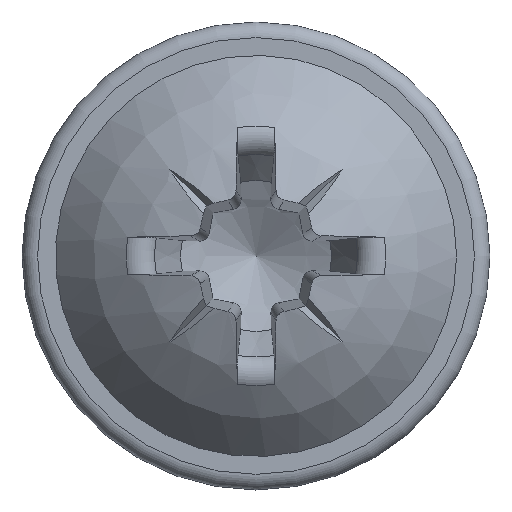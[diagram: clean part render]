
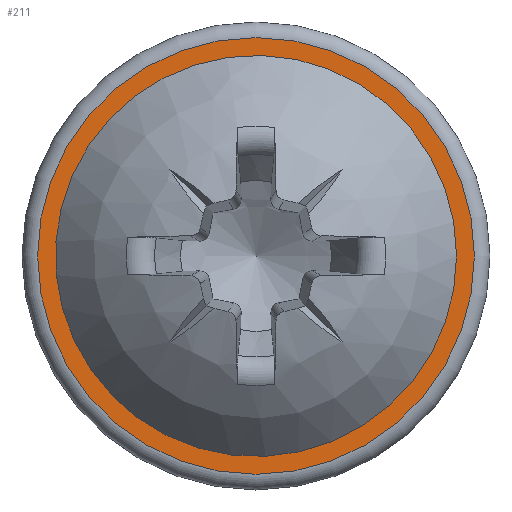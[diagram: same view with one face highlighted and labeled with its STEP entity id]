
A CAD part, top view. The second image highlights one B-rep face of the part: STEP entity #211.
In plain terms, the highlighted planar face has unit normal (0, 0, 1).
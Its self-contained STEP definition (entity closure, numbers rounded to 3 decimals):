
#137=PLANE('',#1203);
#192=FACE_BOUND('',#349,.T.);
#193=FACE_BOUND('',#350,.T.);
#211=ADVANCED_FACE('',(#192,#193),#137,.F.);
#349=EDGE_LOOP('',(#532));
#350=EDGE_LOOP('',(#533));
#415=CIRCLE('',#1159,5.143);
#451=CIRCLE('',#1202,5.6);
#532=ORIENTED_EDGE('',*,*,#975,.T.);
#533=ORIENTED_EDGE('',*,*,#921,.F.);
#808=VERTEX_POINT('',#1768);
#859=VERTEX_POINT('',#2210);
#921=EDGE_CURVE('',#808,#808,#415,.T.);
#975=EDGE_CURVE('',#859,#859,#451,.T.);
#1159=AXIS2_PLACEMENT_3D('',#1767,#1268,#1269);
#1202=AXIS2_PLACEMENT_3D('',#2209,#1354,#1355);
#1203=AXIS2_PLACEMENT_3D('',#2211,#1356,#1357);
#1268=DIRECTION('',(0.,0.,1.));
#1269=DIRECTION('',(1.,0.,0.));
#1354=DIRECTION('',(0.,0.,1.));
#1355=DIRECTION('',(-1.,0.,0.));
#1356=DIRECTION('',(0.,0.,-1.));
#1357=DIRECTION('',(-1.,0.,0.));
#1767=CARTESIAN_POINT('',(0.,0.,1.3));
#1768=CARTESIAN_POINT('',(5.143,0.,1.3));
#2209=CARTESIAN_POINT('',(0.,0.,1.3));
#2210=CARTESIAN_POINT('',(-5.6,0.,1.3));
#2211=CARTESIAN_POINT('',(0.,6.,1.3));
